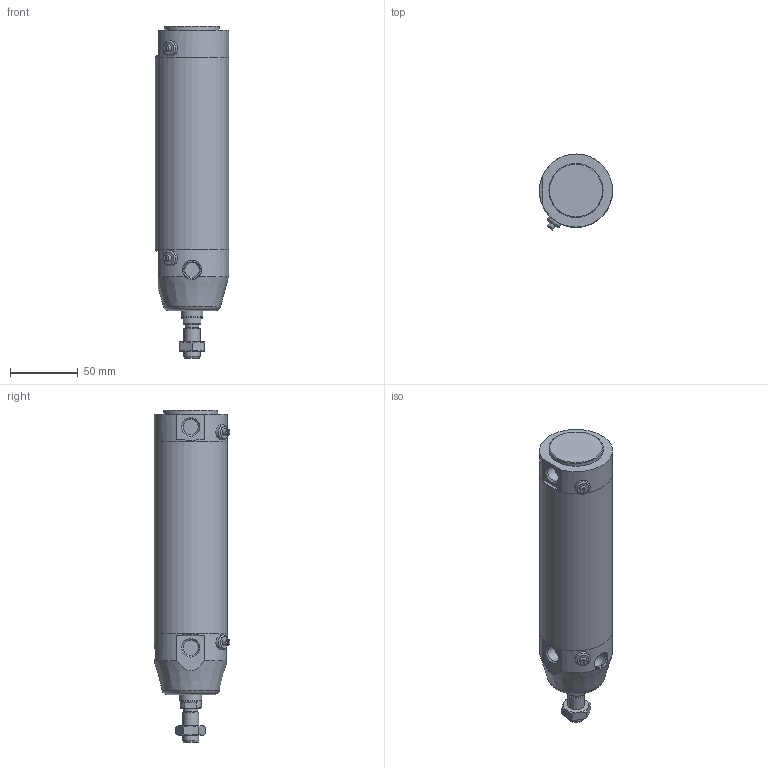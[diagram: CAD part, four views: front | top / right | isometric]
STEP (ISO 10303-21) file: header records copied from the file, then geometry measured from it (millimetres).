
FILE_DESCRIPTION(/* description */ (''),/* implementation_level */ '2;1');
FILE_NAME(/* name */ 'I:\Area Tecnica\Documenti\A-Manieri\_Inventor\12X\12X#E_###_####_#_#\12XBE_050_0100_#_#.stp',/* time_stamp */ '2015-05-08T13:57:57+02:00',/* author */ ('maniean1'),/* organization */ ('Pneumax S.p.A.'),/* preprocessor_version */ 'ST-DEVELOPER v15.2',/* originating_system */ 'Autodesk Inventor 2014',/* authorisation */ '');
FILE_SCHEMA (('AUTOMOTIVE_DESIGN { 1 0 10303 214 3 1 1 }'));
Length unit declared in the file: millimetre
Products named in the file (6): C1250_619-0100; 12X50_623; S12X50_0100; 12X_50_11; 12X50_612; 12XBE_050_0100_#_#
Bounding box: 54 x 55.88 x 245 mm (x, y, z)
Volume: 292188.9 mm3; surface area: 89599.7 mm2
Topology: 5 solids, 5 shells, 83 faces, 174 edges, 112 vertices
Faces by surface type: plane 45, cylinder 22, cone 13, torus 3
Full cylindrical faces by diameter (mm): 5 x2, 10.2 x1, 10.9 x2, 11 x2, 11.4 x2, 12 x2, 14 x1, 14.1 x2, 15.6 x1, 16 x1, 40 x1, 50 x2, 54 x3
Entity records: 2203 total; most frequent: CARTESIAN_POINT 508, DIRECTION 359, ORIENTED_EDGE 254, AXIS2_PLACEMENT_3D 161, EDGE_LOOP 136, EDGE_CURVE 127, VERTEX_POINT 101, ADVANCED_FACE 83
